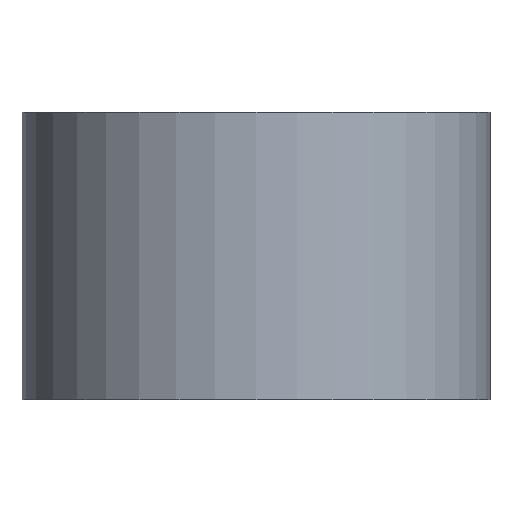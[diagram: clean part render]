
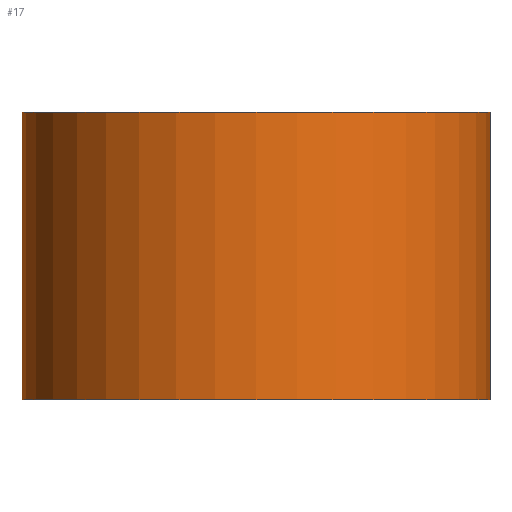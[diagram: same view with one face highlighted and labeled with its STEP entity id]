
A CAD part, front view. The second image highlights one B-rep face of the part: STEP entity #17.
In plain terms, the highlighted cylindrical face has radius 3.5 mm (diameter 7 mm), a full revolution.
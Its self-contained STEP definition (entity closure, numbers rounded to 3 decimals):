
#17 = ADVANCED_FACE('',(#18),#31,.T.);
#18 = FACE_BOUND('',#19,.T.);
#19 = EDGE_LOOP('',(#20,#54,#77,#104));
#20 = ORIENTED_EDGE('',*,*,#21,.F.);
#21 = EDGE_CURVE('',#22,#22,#24,.T.);
#22 = VERTEX_POINT('',#23);
#23 = CARTESIAN_POINT('',(3.5,0.,4.3));
#24 = SURFACE_CURVE('',#25,(#30,#42),.PCURVE_S1.);
#25 = CIRCLE('',#26,3.5);
#26 = AXIS2_PLACEMENT_3D('',#27,#28,#29);
#27 = CARTESIAN_POINT('',(0.,0.,4.3));
#28 = DIRECTION('',(0.,0.,1.));
#29 = DIRECTION('',(1.,0.,-0.));
#30 = PCURVE('',#31,#36);
#31 = CYLINDRICAL_SURFACE('',#32,3.5);
#32 = AXIS2_PLACEMENT_3D('',#33,#34,#35);
#33 = CARTESIAN_POINT('',(0.,0.,0.));
#34 = DIRECTION('',(0.,0.,1.));
#35 = DIRECTION('',(1.,0.,-0.));
#36 = DEFINITIONAL_REPRESENTATION('',(#37),#41);
#37 = LINE('',#38,#39);
#38 = CARTESIAN_POINT('',(0.,4.3));
#39 = VECTOR('',#40,1.);
#40 = DIRECTION('',(1.,0.));
#41 = ( GEOMETRIC_REPRESENTATION_CONTEXT(2) 
PARAMETRIC_REPRESENTATION_CONTEXT() REPRESENTATION_CONTEXT('2D SPACE',''
  ) );
#42 = PCURVE('',#43,#48);
#43 = PLANE('',#44);
#44 = AXIS2_PLACEMENT_3D('',#45,#46,#47);
#45 = CARTESIAN_POINT('',(0.,0.,4.3));
#46 = DIRECTION('',(0.,0.,1.));
#47 = DIRECTION('',(1.,0.,-0.));
#48 = DEFINITIONAL_REPRESENTATION('',(#49),#53);
#49 = CIRCLE('',#50,3.5);
#50 = AXIS2_PLACEMENT_2D('',#51,#52);
#51 = CARTESIAN_POINT('',(0.,0.));
#52 = DIRECTION('',(1.,0.));
#53 = ( GEOMETRIC_REPRESENTATION_CONTEXT(2) 
PARAMETRIC_REPRESENTATION_CONTEXT() REPRESENTATION_CONTEXT('2D SPACE',''
  ) );
#54 = ORIENTED_EDGE('',*,*,#55,.F.);
#55 = EDGE_CURVE('',#56,#22,#58,.T.);
#56 = VERTEX_POINT('',#57);
#57 = CARTESIAN_POINT('',(3.5,0.,0.));
#58 = SEAM_CURVE('',#59,(#63,#70),.PCURVE_S1.);
#59 = LINE('',#60,#61);
#60 = CARTESIAN_POINT('',(3.5,0.,0.));
#61 = VECTOR('',#62,1.);
#62 = DIRECTION('',(0.,0.,1.));
#63 = PCURVE('',#31,#64);
#64 = DEFINITIONAL_REPRESENTATION('',(#65),#69);
#65 = LINE('',#66,#67);
#66 = CARTESIAN_POINT('',(6.283,-0.));
#67 = VECTOR('',#68,1.);
#68 = DIRECTION('',(0.,1.));
#69 = ( GEOMETRIC_REPRESENTATION_CONTEXT(2) 
PARAMETRIC_REPRESENTATION_CONTEXT() REPRESENTATION_CONTEXT('2D SPACE',''
  ) );
#70 = PCURVE('',#31,#71);
#71 = DEFINITIONAL_REPRESENTATION('',(#72),#76);
#72 = LINE('',#73,#74);
#73 = CARTESIAN_POINT('',(0.,-0.));
#74 = VECTOR('',#75,1.);
#75 = DIRECTION('',(0.,1.));
#76 = ( GEOMETRIC_REPRESENTATION_CONTEXT(2) 
PARAMETRIC_REPRESENTATION_CONTEXT() REPRESENTATION_CONTEXT('2D SPACE',''
  ) );
#77 = ORIENTED_EDGE('',*,*,#78,.T.);
#78 = EDGE_CURVE('',#56,#56,#79,.T.);
#79 = SURFACE_CURVE('',#80,(#85,#92),.PCURVE_S1.);
#80 = CIRCLE('',#81,3.5);
#81 = AXIS2_PLACEMENT_3D('',#82,#83,#84);
#82 = CARTESIAN_POINT('',(0.,0.,0.));
#83 = DIRECTION('',(0.,0.,1.));
#84 = DIRECTION('',(1.,0.,-0.));
#85 = PCURVE('',#31,#86);
#86 = DEFINITIONAL_REPRESENTATION('',(#87),#91);
#87 = LINE('',#88,#89);
#88 = CARTESIAN_POINT('',(0.,0.));
#89 = VECTOR('',#90,1.);
#90 = DIRECTION('',(1.,0.));
#91 = ( GEOMETRIC_REPRESENTATION_CONTEXT(2) 
PARAMETRIC_REPRESENTATION_CONTEXT() REPRESENTATION_CONTEXT('2D SPACE',''
  ) );
#92 = PCURVE('',#93,#98);
#93 = PLANE('',#94);
#94 = AXIS2_PLACEMENT_3D('',#95,#96,#97);
#95 = CARTESIAN_POINT('',(0.,0.,0.));
#96 = DIRECTION('',(0.,0.,1.));
#97 = DIRECTION('',(1.,0.,-0.));
#98 = DEFINITIONAL_REPRESENTATION('',(#99),#103);
#99 = CIRCLE('',#100,3.5);
#100 = AXIS2_PLACEMENT_2D('',#101,#102);
#101 = CARTESIAN_POINT('',(0.,0.));
#102 = DIRECTION('',(1.,0.));
#103 = ( GEOMETRIC_REPRESENTATION_CONTEXT(2) 
PARAMETRIC_REPRESENTATION_CONTEXT() REPRESENTATION_CONTEXT('2D SPACE',''
  ) );
#104 = ORIENTED_EDGE('',*,*,#55,.T.);
